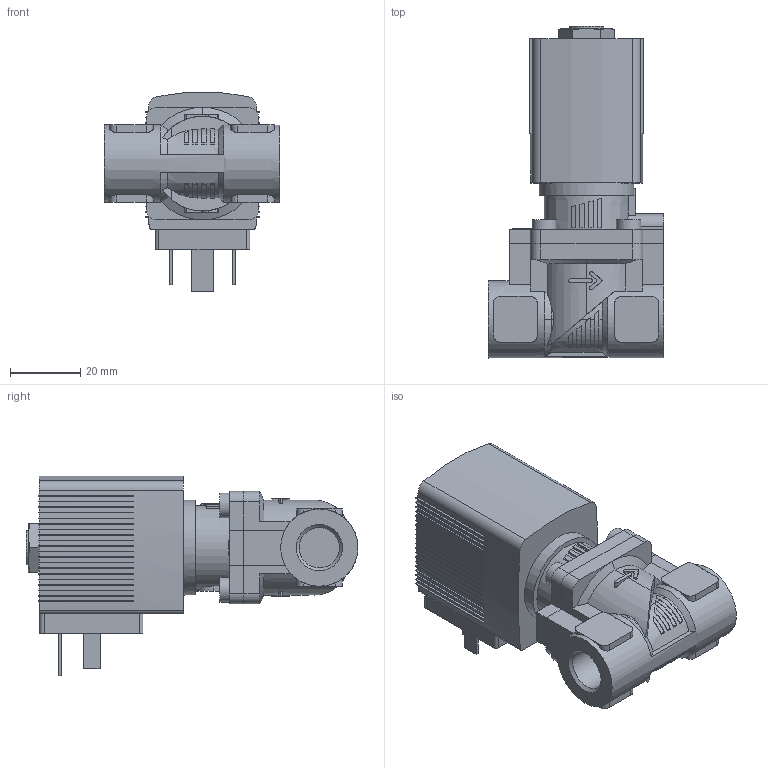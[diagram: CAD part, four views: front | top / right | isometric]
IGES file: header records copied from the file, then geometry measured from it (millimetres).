
Start section: Data from Parasolid IGES Translator 26.0.171, Copyright(c) 2006 Siemens PLM Software. All Rights Reserved.
Global section: file name: 6281-346866-2_2-Way_Solenoid_Valve__Servo-assisted__General_Purpose.igs; native system: By Siemens PLM Incorporated; preprocessor: XPlus GENERIC/IGES 26.0.171; author: Noname; organization: Noname; date: 20240617.125757; units: millimetre
Bounding box: 50 x 94.5 x 56.84 mm (x, y, z)
Surface area: 22814.5 mm2 (no closed solid volume)
Topology: 0 solids, 0 shells, 549 faces, 3032 edges, 3014 vertices
Faces by surface type: extrusion 430, revolution 119
